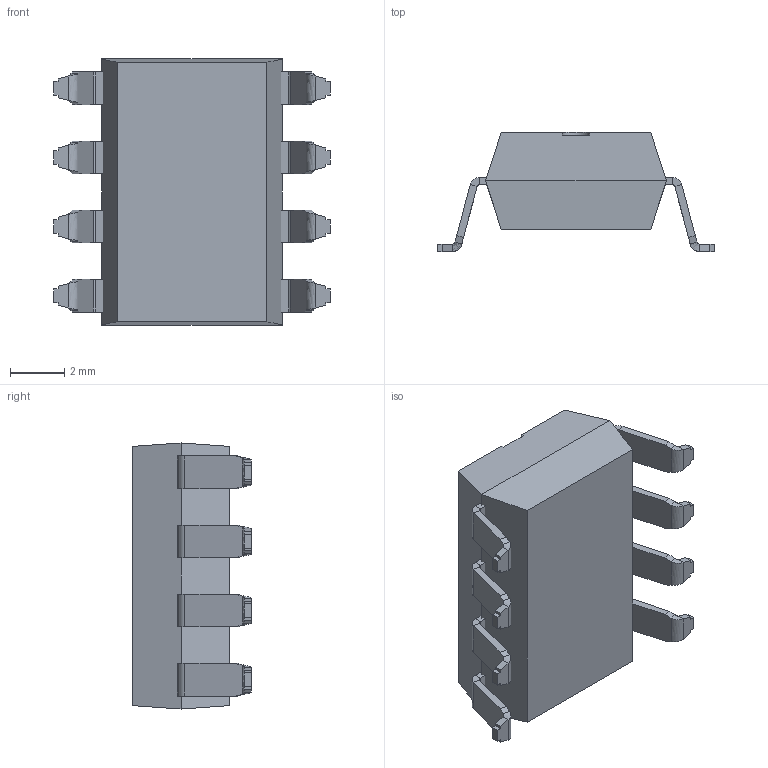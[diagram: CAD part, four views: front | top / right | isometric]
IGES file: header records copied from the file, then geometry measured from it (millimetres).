
Start section: SolidWorks IGES file using analytic representation for surfaces
Global section: file name: C:\Users\David\Dropbox\Jose Espina\Component Packages\DIP8\DIP8-OP7.IGS; native system: SolidWorks 2015; preprocessor: SolidWorks 2015; author: David; date: 151212.124148; units: millimetre
Bounding box: 10.16 x 4.36 x 9.77 mm (x, y, z)
Volume: 242.6 mm3; surface area: 646.6 mm2
Topology: 4 solids, 4 shells, 226 faces, 526 edges, 308 vertices
Faces by surface type: plane 177, revolution 33, bspline 16
